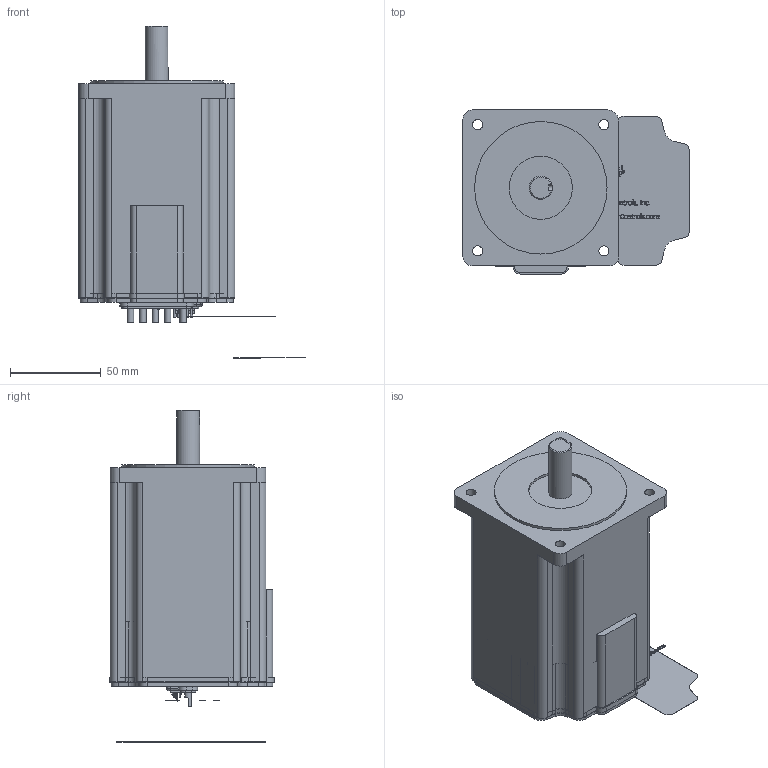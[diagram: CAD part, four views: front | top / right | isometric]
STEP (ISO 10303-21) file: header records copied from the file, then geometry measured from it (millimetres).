
FILE_DESCRIPTION(/* description */ ('Alibre Inc.'),/* implementation_level */ '2;1');
FILE_NAME(/* name */ 'export0',/* time_stamp */ '2008-02-05T13:26:36-08:00',/* author */ (''),/* organization */ (''),/* preprocessor_version */ 'ST-DEVELOPER v10',/* originating_system */ 'Alibre',/* authorisation */ '');
FILE_SCHEMA (('ALIBRE_SCHEMA','CONFIG_CONTROL_DESIGN'));
Length unit declared in the file: inch
Products named in the file (11): ID_1
Bounding box: 124.92 x 90.42 x 183.01 mm (x, y, z)
Volume: 830519.1 mm3; surface area: 106619.7 mm2
Topology: 63 solids, 64 shells, 2051 faces, 5333 edges, 3495 vertices
Faces by surface type: plane 996, bspline 641, cylinder 358, torus 50, cone 6
Full cylindrical faces by diameter (mm): 2.489 x1, 2.794 x5, 2.87 x1, 3.048 x6, 3.556 x15, 5.537 x4, 9.525 x2, 12.7 x1, 25.4 x1, 34.798 x1, 73.025 x1
Entity records: 124723 total; most frequent: CARTESIAN_POINT 36179, ORIENTED_EDGE 13338, DIRECTION 9376, EDGE_CURVE 6661, CONSTRAINTPAIRUV 5249, VECTOR 4937, PERSISTANTTOPOLOGYATTRIBUTE 4687, LINE 4547
